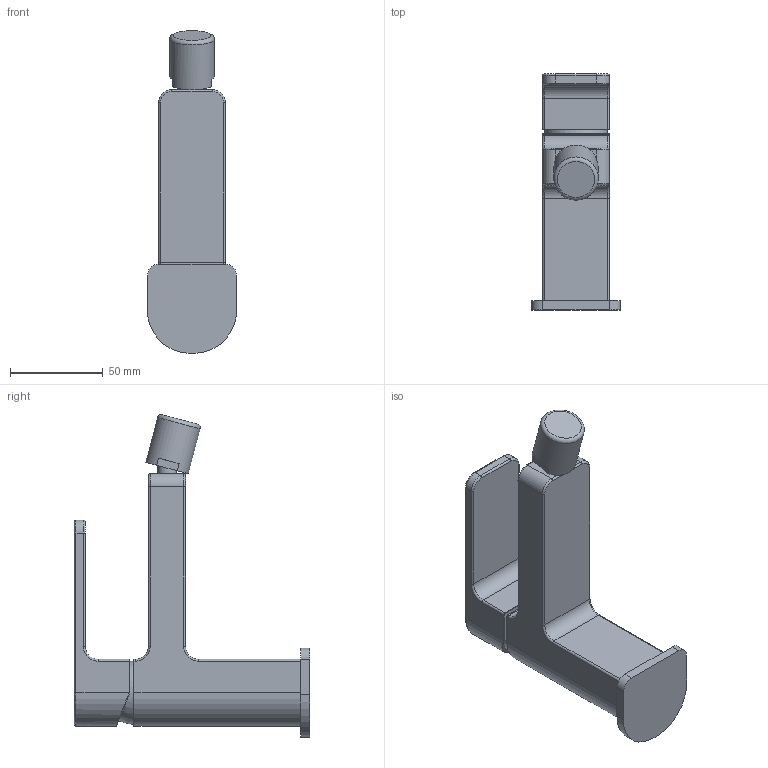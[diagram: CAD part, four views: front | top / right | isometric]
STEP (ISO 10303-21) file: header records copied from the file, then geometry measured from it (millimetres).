
FILE_DESCRIPTION(/* description */ (''),/* implementation_level */ '2;1');
FILE_NAME(/* name */ 'c:\worker\convert-fusion-oct-2018\tmp\job-1\90\output\files\c0e57bae-8790-43c8-8669-965ec53844ca\ff1fbad6-87d8-47c1-98a2-04c216ed191f.stp',/* time_stamp */ '2018-10-17T11:34:54+00:00',/* author */ (''),/* organization */ (''),/* preprocessor_version */ 'ST-DEVELOPER v17.2',/* originating_system */ 'Autodesk Translation Framework v7.6.0.251',/* authorisation */ '');
FILE_SCHEMA (('AUTOMOTIVE_DESIGN { 1 0 10303 214 3 1 1 }'));
Length unit declared in the file: millimetre
Products named in the file (3): !BA7820; mocowanie perlatora; perlator
Assembly tree (2 placements, depth 2):
  !BA7820
    mocowanie perlatora
    perlator
Bounding box: 48 x 127 x 173.72 mm (x, y, z)
Volume: 258902.7 mm3; surface area: 47220.7 mm2
Topology: 6 solids, 6 shells, 96 faces, 211 edges, 126 vertices
Faces by surface type: cylinder 41, plane 32, torus 21, sphere 1, bspline 1
Full cylindrical faces by diameter (mm): 10 x1, 24 x1
Entity records: 2757 total; most frequent: DIRECTION 520, CARTESIAN_POINT 486, ORIENTED_EDGE 420, EDGE_CURVE 210, AXIS2_PLACEMENT_3D 210, VERTEX_POINT 126, CIRCLE 106, LINE 100
